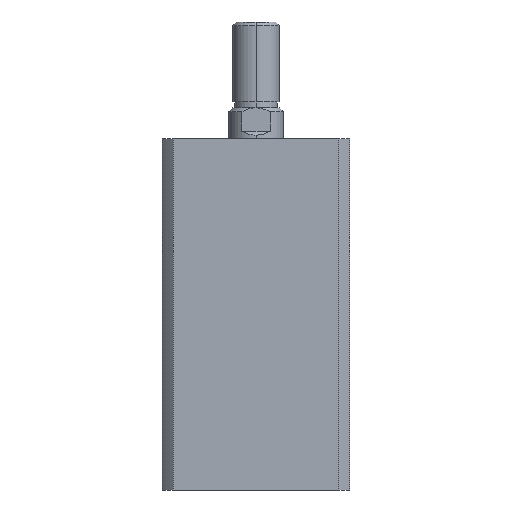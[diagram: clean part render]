
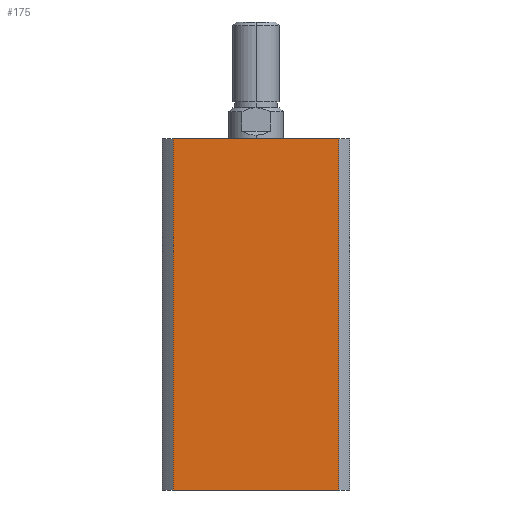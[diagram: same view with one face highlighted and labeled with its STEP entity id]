
A CAD part, left-side view. The second image highlights one B-rep face of the part: STEP entity #175.
In plain terms, the highlighted planar face has unit normal (-1, 0, 0).
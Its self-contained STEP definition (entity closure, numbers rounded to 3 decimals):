
#175 = ADVANCED_FACE ( 'NONE', ( #1753 ), #4826, .F. ) ;
#363 = AXIS2_PLACEMENT_3D ( 'NONE', #4834, #4811, #4810 ) ;
#785 = VERTEX_POINT ( 'NONE', #4235 ) ;
#797 = VERTEX_POINT ( 'NONE', #4255 ) ;
#802 = VERTEX_POINT ( 'NONE', #4260 ) ;
#1018 = EDGE_LOOP ( 'NONE', ( #1193, #1192, #1191, #1190 ) ) ;
#1190 = ORIENTED_EDGE ( 'NONE', *, *, #4670, .T. ) ;
#1191 = ORIENTED_EDGE ( 'NONE', *, *, #2430, .F. ) ;
#1192 = ORIENTED_EDGE ( 'NONE', *, *, #4669, .F. ) ;
#1193 = ORIENTED_EDGE ( 'NONE', *, *, #4668, .T. ) ;
#1258 = CARTESIAN_POINT ( 'NONE',  ( -24., 0., 0. ) ) ;
#1259 = DIRECTION ( 'NONE',  ( 0., -1., 0. ) ) ;
#1263 = CARTESIAN_POINT ( 'NONE',  ( -24., 21.166, 90. ) ) ;
#1264 = CARTESIAN_POINT ( 'NONE',  ( -24., -21.166, 90. ) ) ;
#1269 = DIRECTION ( 'NONE',  ( 0., 0., -1. ) ) ;
#1271 = DIRECTION ( 'NONE',  ( 0., 0., -1. ) ) ;
#1650 = VERTEX_POINT ( 'NONE', #4405 ) ;
#1753 = FACE_OUTER_BOUND ( 'NONE', #1018, .T. ) ;
#2049 = LINE ( 'NONE', #4538, #2052 ) ;
#2052 = VECTOR ( 'NONE', #4520, 1000. ) ;
#2430 = EDGE_CURVE ( 'NONE', #1650, #802, #2049, .T. ) ;
#3199 = LINE ( 'NONE', #1264, #3217 ) ;
#3213 = LINE ( 'NONE', #1258, #3215 ) ;
#3214 = LINE ( 'NONE', #1263, #3219 ) ;
#3215 = VECTOR ( 'NONE', #1259, 1000. ) ;
#3217 = VECTOR ( 'NONE', #1269, 1000. ) ;
#3219 = VECTOR ( 'NONE', #1271, 1000. ) ;
#4235 = CARTESIAN_POINT ( 'NONE',  ( -24., -21.166, 0. ) ) ;
#4255 = CARTESIAN_POINT ( 'NONE',  ( -24., 21.166, 0. ) ) ;
#4260 = CARTESIAN_POINT ( 'NONE',  ( -24., -21.166, 90. ) ) ;
#4405 = CARTESIAN_POINT ( 'NONE',  ( -24., 21.166, 90. ) ) ;
#4520 = DIRECTION ( 'NONE',  ( 0., -1., 0. ) ) ;
#4538 = CARTESIAN_POINT ( 'NONE',  ( -24., 0., 90. ) ) ;
#4668 = EDGE_CURVE ( 'NONE', #797, #785, #3213, .T. ) ;
#4669 = EDGE_CURVE ( 'NONE', #802, #785, #3199, .T. ) ;
#4670 = EDGE_CURVE ( 'NONE', #1650, #797, #3214, .T. ) ;
#4810 = DIRECTION ( 'NONE',  ( 0., 0., -1. ) ) ;
#4811 = DIRECTION ( 'NONE',  ( 1., 0., 0. ) ) ;
#4826 = PLANE ( 'NONE',  #363 ) ;
#4834 = CARTESIAN_POINT ( 'NONE',  ( -24., 0., 90. ) ) ;
